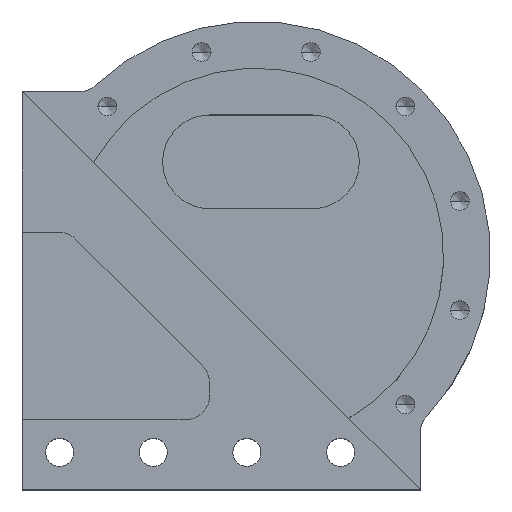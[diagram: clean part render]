
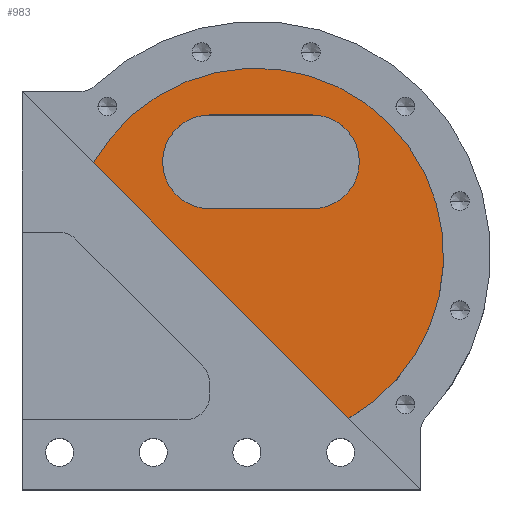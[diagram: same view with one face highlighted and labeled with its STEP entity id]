
A CAD part, top view. The second image highlights one B-rep face of the part: STEP entity #983.
In plain terms, the highlighted planar face has unit normal (0, 0, 1).
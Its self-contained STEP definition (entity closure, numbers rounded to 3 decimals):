
#923=CARTESIAN_POINT('',(62.0,60.0,0.0));
#924=VERTEX_POINT('',#923);
#925=CARTESIAN_POINT('',(62.0,80.0,0.0));
#926=VERTEX_POINT('',#925);
#927=CARTESIAN_POINT('',(62.0,70.0,0.0));
#928=DIRECTION('',(0.0,0.0,1.0));
#929=DIRECTION('',(0.0,-1.0,0.0));
#930=AXIS2_PLACEMENT_3D('',#927,#928,#929);
#931=CIRCLE('',#930,10.0);
#932=EDGE_CURVE('',#924,#926,#931,.T.);
#933=ORIENTED_EDGE('',*,*,#932,.F.);
#934=CARTESIAN_POINT('',(40.0,60.0,0.0));
#935=VERTEX_POINT('',#934);
#936=CARTESIAN_POINT('',(40.0,60.0,0.0));
#937=DIRECTION('',(1.0,0.0,0.0));
#938=VECTOR('',#937,1.0);
#939=LINE('',#936,#938);
#940=EDGE_CURVE('',#935,#924,#939,.T.);
#941=ORIENTED_EDGE('',*,*,#940,.F.);
#942=CARTESIAN_POINT('',(40.0,80.0,0.0));
#943=VERTEX_POINT('',#942);
#944=CARTESIAN_POINT('',(40.0,70.0,0.0));
#945=DIRECTION('',(0.0,0.0,1.0));
#946=DIRECTION('',(0.0,1.0,0.0));
#947=AXIS2_PLACEMENT_3D('',#944,#945,#946);
#948=CIRCLE('',#947,10.0);
#949=EDGE_CURVE('',#943,#935,#948,.T.);
#950=ORIENTED_EDGE('',*,*,#949,.F.);
#951=CARTESIAN_POINT('',(62.0,80.0,0.0));
#952=DIRECTION('',(-1.0,0.0,0.0));
#953=VECTOR('',#952,1.0);
#954=LINE('',#951,#953);
#955=EDGE_CURVE('',#926,#943,#954,.T.);
#956=ORIENTED_EDGE('',*,*,#955,.F.);
#957=EDGE_LOOP('',(#933,#941,#950,#956));
#958=FACE_BOUND('',#957,.T.);
#959=CARTESIAN_POINT('',(69.772,15.228,0.0));
#960=VERTEX_POINT('',#959);
#961=CARTESIAN_POINT('',(15.228,69.772,0.0));
#962=VERTEX_POINT('',#961);
#963=CARTESIAN_POINT('',(69.772,15.228,0.0));
#964=DIRECTION('',(-0.707,0.707,0.0));
#965=VECTOR('',#964,1.0);
#966=LINE('',#963,#965);
#967=EDGE_CURVE('',#960,#962,#966,.T.);
#968=ORIENTED_EDGE('',*,*,#967,.F.);
#969=CARTESIAN_POINT('',(50.0,50.0,0.0));
#970=DIRECTION('',(0.0,0.0,-1.0));
#971=DIRECTION('',(-0.869,0.494,0.0));
#972=AXIS2_PLACEMENT_3D('',#969,#970,#971);
#973=CIRCLE('',#972,40.0);
#974=EDGE_CURVE('',#962,#960,#973,.T.);
#975=ORIENTED_EDGE('',*,*,#974,.F.);
#976=EDGE_LOOP('',(#968,#975));
#977=FACE_OUTER_BOUND('',#976,.T.);
#978=CARTESIAN_POINT('',(90.0,12.251,0.0));
#979=DIRECTION('',(0.0,0.0,-1.0));
#980=DIRECTION('',(-1.0,0.0,0.0));
#981=AXIS2_PLACEMENT_3D('',#978,#979,#980);
#982=PLANE('',#981);
#983=ADVANCED_FACE('',(#958,#977),#982,.F.);
